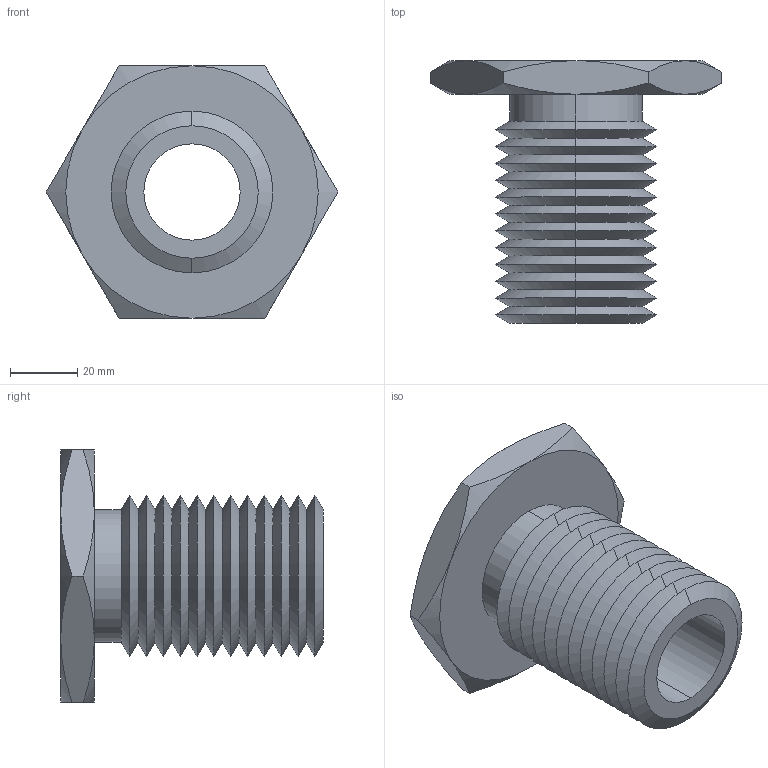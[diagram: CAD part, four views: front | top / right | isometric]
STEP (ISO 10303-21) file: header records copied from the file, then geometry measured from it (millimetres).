
FILE_DESCRIPTION (( 'STEP AP203' ), '1' );
FILE_NAME ('63302.W0048_1,12 UNC-7.step', '2013-12-08T11:19:58', ( 'User' ), ( '' ), 'SwSTEP 2.0', 'SolidWorks 2009', '' );
FILE_SCHEMA (( 'CONFIG_CONTROL_DESIGN' ));
Length unit declared in the file: millimetre
Products named in the file (1): 63302.W0048_1,12 UNC-7
Bounding box: 86.6 x 78 x 75 mm (x, y, z)
Volume: 97003.8 mm3; surface area: 34882.7 mm2
Topology: 1 solids, 1 shells, 75 faces, 154 edges, 82 vertices
Faces by surface type: cone 62, plane 9, cylinder 4
Entity records: 2139 total; most frequent: CARTESIAN_POINT 496, DIRECTION 352, ORIENTED_EDGE 308, EDGE_CURVE 154, AXIS2_PLACEMENT_3D 146, VERTEX_POINT 82, EDGE_LOOP 78, ADVANCED_FACE 75
